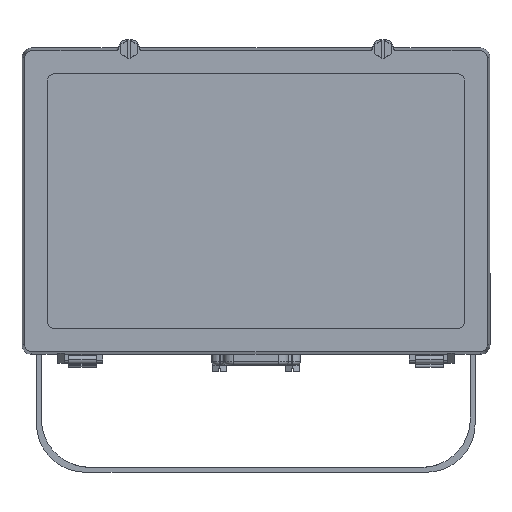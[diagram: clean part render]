
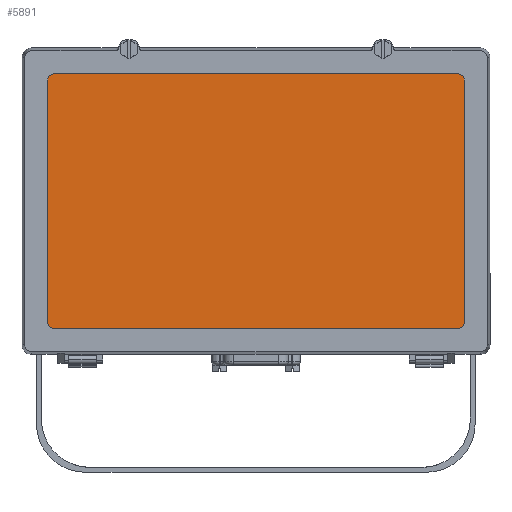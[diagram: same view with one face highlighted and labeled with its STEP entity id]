
A CAD part, top view. The second image highlights one B-rep face of the part: STEP entity #5891.
In plain terms, the highlighted planar face has unit normal (0, 0, 1) as drawn and (0, 0, -1) by its records, which use the part's own axes.
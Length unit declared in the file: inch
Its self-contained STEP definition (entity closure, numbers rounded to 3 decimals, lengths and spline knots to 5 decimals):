
#5813 = ORIENTED_EDGE ( 'NONE', *, *, #21966, .F. ) ;
#5825 = EDGE_CURVE ( 'NONE', #5829, #21932, #12426, .T. ) ;
#5828 = EDGE_CURVE ( 'NONE', #5837, #5829, #12417, .T. ) ;
#5829 = VERTEX_POINT ( 'NONE', #12413 ) ;
#5835 = EDGE_CURVE ( 'NONE', #21902, #5837, #12403, .T. ) ;
#5837 = VERTEX_POINT ( 'NONE', #12404 ) ;
#5846 = EDGE_CURVE ( 'NONE', #21932, #21967, #12461, .T. ) ;
#5848 = ORIENTED_EDGE ( 'NONE', *, *, #5846, .F. ) ;
#5849 = ORIENTED_EDGE ( 'NONE', *, *, #5825, .F. ) ;
#5850 = ORIENTED_EDGE ( 'NONE', *, *, #5828, .F. ) ;
#5851 = ORIENTED_EDGE ( 'NONE', *, *, #5835, .F. ) ;
#5866 = ORIENTED_EDGE ( 'NONE', *, *, #21901, .F. ) ;
#5867 = ORIENTED_EDGE ( 'NONE', *, *, #21913, .F. ) ;
#5868 = ORIENTED_EDGE ( 'NONE', *, *, #21889, .F. ) ;
#5891 = ADVANCED_FACE ( 'NONE', ( #12496 ), #12495, .F. ) ;
#5892 = EDGE_LOOP ( 'NONE', ( #5813, #5848, #5849, #5850, #5851, #5866, #5867, #5868 ) ) ;
#12399 = DIRECTION ( 'NONE',  ( -1., 0., 0. ) ) ;
#12400 = DIRECTION ( 'NONE',  ( 0., 0., 1. ) ) ;
#12401 = CARTESIAN_POINT ( 'NONE',  ( 6.19067, -3.72843, 0. ) ) ;
#12402 = AXIS2_PLACEMENT_3D ( 'NONE', #12401, #12400, #12399 ) ;
#12403 = CIRCLE ( 'NONE', #12402, 0.2 ) ;
#12404 = CARTESIAN_POINT ( 'NONE',  ( 6.39067, -3.72843, 0. ) ) ;
#12413 = CARTESIAN_POINT ( 'NONE',  ( 6.39067, 3.77157, 0. ) ) ;
#12414 = DIRECTION ( 'NONE',  ( 0., 1., 0. ) ) ;
#12415 = VECTOR ( 'NONE', #12414, 39.37008 ) ;
#12416 = CARTESIAN_POINT ( 'NONE',  ( 6.39067, 3.77157, 0. ) ) ;
#12417 = LINE ( 'NONE', #12416, #12415 ) ;
#12422 = DIRECTION ( 'NONE',  ( -1., 0., 0. ) ) ;
#12423 = DIRECTION ( 'NONE',  ( 0., 0., 1. ) ) ;
#12424 = CARTESIAN_POINT ( 'NONE',  ( 6.19067, 3.77157, 0. ) ) ;
#12425 = AXIS2_PLACEMENT_3D ( 'NONE', #12424, #12423, #12422 ) ;
#12426 = CIRCLE ( 'NONE', #12425, 0.2 ) ;
#12458 = DIRECTION ( 'NONE',  ( -1., 0., 0. ) ) ;
#12459 = VECTOR ( 'NONE', #12458, 39.37008 ) ;
#12460 = CARTESIAN_POINT ( 'NONE',  ( -6.30933, 3.97157, 0. ) ) ;
#12461 = LINE ( 'NONE', #12460, #12459 ) ;
#12491 = DIRECTION ( 'NONE',  ( 0., 0., 1. ) ) ;
#12492 = CARTESIAN_POINT ( 'NONE',  ( -6.30933, 3.77157, 0. ) ) ;
#12493 = AXIS2_PLACEMENT_3D ( 'NONE', #12492, #12491, #12541 ) ;
#12495 = PLANE ( 'NONE',  #12493 ) ;
#12496 = FACE_OUTER_BOUND ( 'NONE', #5892, .T. ) ;
#12541 = DIRECTION ( 'NONE',  ( 1., 0., 0. ) ) ;
#13209 = CARTESIAN_POINT ( 'NONE',  ( 6.19067, -3.92843, 0. ) ) ;
#13210 = DIRECTION ( 'NONE',  ( 1., 0., 0. ) ) ;
#13211 = VECTOR ( 'NONE', #13210, 39.37008 ) ;
#13212 = CARTESIAN_POINT ( 'NONE',  ( -6.30933, -3.92843, 0. ) ) ;
#13213 = LINE ( 'NONE', #13212, #13211 ) ;
#13249 = DIRECTION ( 'NONE',  ( -1., 0., 0. ) ) ;
#13250 = DIRECTION ( 'NONE',  ( 0., 0., 1. ) ) ;
#13251 = CARTESIAN_POINT ( 'NONE',  ( -6.30933, -3.72843, 0. ) ) ;
#13252 = AXIS2_PLACEMENT_3D ( 'NONE', #13251, #13250, #13249 ) ;
#13253 = CIRCLE ( 'NONE', #13252, 0.2 ) ;
#13254 = CARTESIAN_POINT ( 'NONE',  ( -6.30933, -3.92843, 0. ) ) ;
#13281 = CARTESIAN_POINT ( 'NONE',  ( 6.19067, 3.97157, 0. ) ) ;
#13303 = CARTESIAN_POINT ( 'NONE',  ( -6.50933, -3.72843, 0. ) ) ;
#13379 = CARTESIAN_POINT ( 'NONE',  ( -6.50933, 3.77157, 0. ) ) ;
#13380 = CARTESIAN_POINT ( 'NONE',  ( -6.30933, 3.97157, 0. ) ) ;
#13381 = DIRECTION ( 'NONE',  ( 1., 0., 0. ) ) ;
#13382 = DIRECTION ( 'NONE',  ( 0., 0., 1. ) ) ;
#13383 = CARTESIAN_POINT ( 'NONE',  ( -6.30933, 3.77157, 0. ) ) ;
#13384 = AXIS2_PLACEMENT_3D ( 'NONE', #13383, #13382, #13381 ) ;
#13385 = CIRCLE ( 'NONE', #13384, 0.2 ) ;
#21572 = DIRECTION ( 'NONE',  ( 0., -1., 0. ) ) ;
#21573 = VECTOR ( 'NONE', #21572, 39.37008 ) ;
#21574 = CARTESIAN_POINT ( 'NONE',  ( -6.50933, 3.77157, 0. ) ) ;
#21575 = LINE ( 'NONE', #21574, #21573 ) ;
#21889 = EDGE_CURVE ( 'NONE', #21968, #21954, #21575, .T. ) ;
#21901 = EDGE_CURVE ( 'NONE', #21912, #21902, #13213, .T. ) ;
#21902 = VERTEX_POINT ( 'NONE', #13209 ) ;
#21912 = VERTEX_POINT ( 'NONE', #13254 ) ;
#21913 = EDGE_CURVE ( 'NONE', #21954, #21912, #13253, .T. ) ;
#21932 = VERTEX_POINT ( 'NONE', #13281 ) ;
#21954 = VERTEX_POINT ( 'NONE', #13303 ) ;
#21966 = EDGE_CURVE ( 'NONE', #21967, #21968, #13385, .T. ) ;
#21967 = VERTEX_POINT ( 'NONE', #13380 ) ;
#21968 = VERTEX_POINT ( 'NONE', #13379 ) ;
